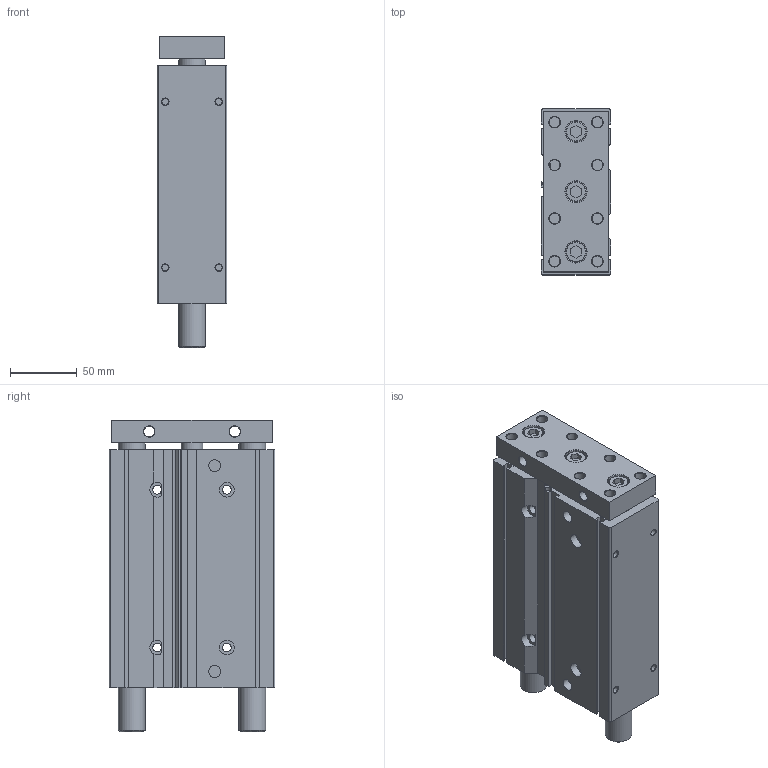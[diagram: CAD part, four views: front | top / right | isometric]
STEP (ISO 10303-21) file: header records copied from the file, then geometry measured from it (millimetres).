
FILE_DESCRIPTION((''),'2;1');
FILE_NAME('I:\3D電子目錄\氣缸\TB(U)\TB(U)40\TB(U)40\TB(U)40x125.stp','2007-08-06T09:06:53',('Administrator'),(''),'Autodesk Inventor 2008','Autodesk Inventor 2008','');
FILE_SCHEMA(('AUTOMOTIVE_DESIGN { 1 0 10303 214 1 1 1 1 }'));
Length unit declared in the file: millimetre
Products named in the file (1): TB(U)40X125
Bounding box: 52 x 124 x 233 mm (x, y, z)
Volume: 1174710.6 mm3; surface area: 127434.7 mm2
Topology: 1 solids, 1 shells, 218 faces, 500 edges, 320 vertices
Faces by surface type: plane 104, cylinder 52, cone 37, bspline 22, torus 3
Full cylindrical faces by diameter (mm): 5 x4, 6 x4, 6.5 x4, 8 x10, 9 x2, 11 x6, 15 x3, 16 x4, 20 x4, 28 x2, 35 x1
Entity records: 5822 total; most frequent: CARTESIAN_POINT 1073, DIRECTION 962, ORIENTED_EDGE 824, EDGE_CURVE 412, EDGE_LOOP 374, AXIS2_PLACEMENT_3D 353, VERTEX_POINT 320, VECTOR 256
